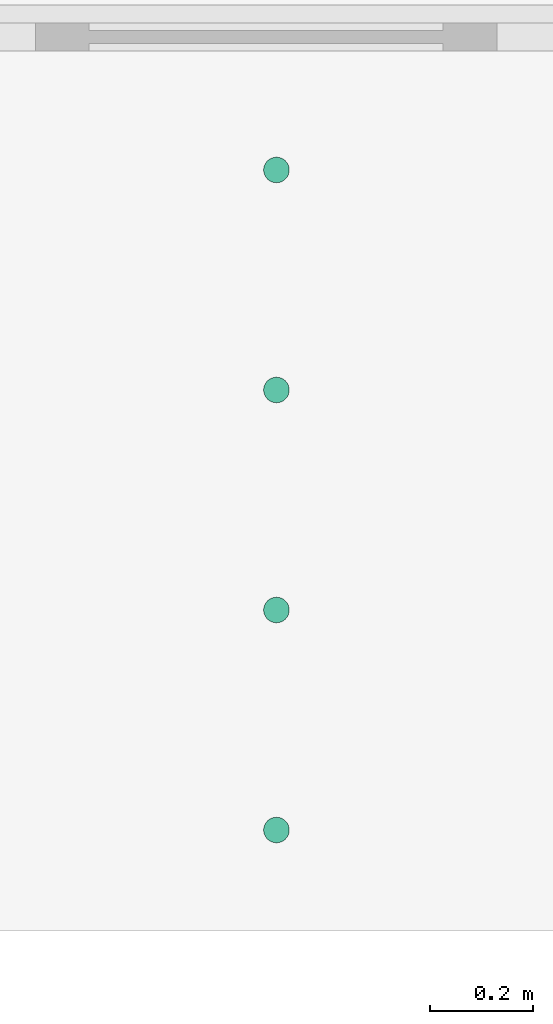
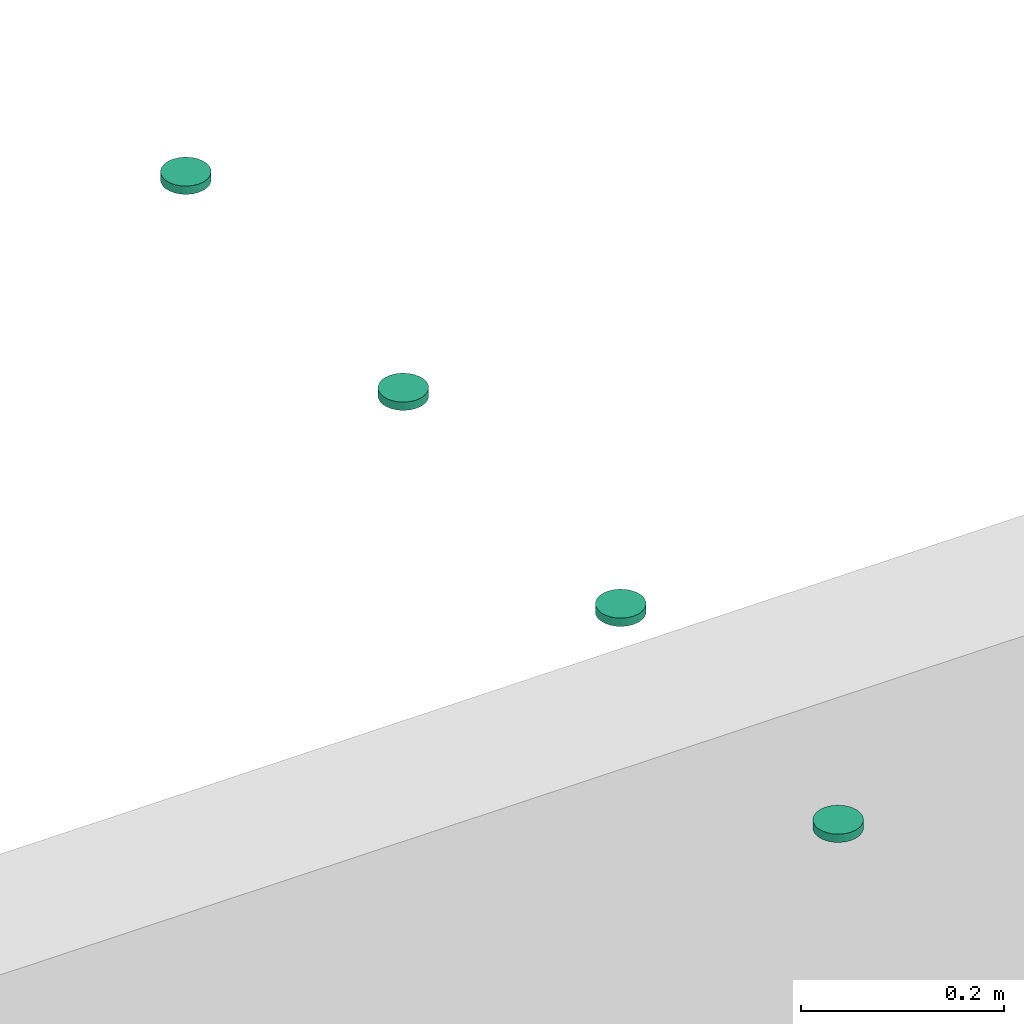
# One storey, part 5 of 6: 4 flow terminals.
"""IFC2X3 building model written with IfcOpenShell, lengths in millimetres."""

import ifcopenshell
import ifcopenshell.guid

model = None  # the IFC model being written
_history = None  # IfcOwnerHistory: only IFC2X3 demands one
_inside = {}  # id of a spatial element -> (the spatial element, [elements in it])
_under = {}  # id of a project, library or spatial element -> (it, [spatial elements below it])
_declared = {}  # id of a project -> (the project, [libraries it declares])
_typed = {}  # id of a type object -> (the type object, [elements of that type])
_made_of = {}  # id of a material, layer set ... -> (it, [elements and type objects made of it])


def new_model(schema):
    """Start an empty IFC model of exactly this schema.

    Asked for "IFC4X3", IfcOpenShell would pick the latest addendum, in which some entities
    have other attributes; the version numbers below select the first issue.
    IFC2X3 requires an IfcOwnerHistory on every rooted entity: one is made here for all.
    """
    global model, _history
    if schema == "IFC4X3":
        model = ifcopenshell.file(schema_version=(4, 3, 0, 0))
    else:
        model = ifcopenshell.file(schema=schema)
    _inside.clear()
    _under.clear()
    _declared.clear()
    _typed.clear()
    _made_of.clear()
    _history = None
    if model.schema == "IFC2X3":
        org = make("IfcOrganization", Name="unknown")
        user = make(
            "IfcPersonAndOrganization",
            ThePerson=make("IfcPerson", FamilyName="unknown"),
            TheOrganization=org,
        )
        app = make(
            "IfcApplication",
            ApplicationDeveloper=org,
            Version="unknown",
            ApplicationFullName="unknown",
            ApplicationIdentifier="unknown",
        )
        _history = make(
            "IfcOwnerHistory",
            OwningUser=user,
            OwningApplication=app,
            ChangeAction="ADDED",
            CreationDate=0,
        )
    return model


def make(cls, **values):
    """One entity of the class cls with the attributes given. An attribute that is None is left unset."""
    return model.create_entity(
        cls, **{name: value for name, value in values.items() if value is not None}
    )


def entity(cls, *values):
    """Any entity or typed value of the class cls, its attributes in the order of the schema. None: left unset."""
    e = model.create_entity(cls)
    for i, value in enumerate(values):
        if value is not None:
            e[i] = value
    return e


def rooted(cls, **values):
    """An entity with a GlobalId (a new one), such as an element, a storey or a relation."""
    return make(cls, GlobalId=ifcopenshell.guid.new(), OwnerHistory=_history, **values)


def si_unit(unit_type, name, prefix=None):
    """IfcSIUnit, for example si_unit("LENGTHUNIT", "METRE", prefix="MILLI")."""
    return make("IfcSIUnit", UnitType=unit_type, Prefix=prefix, Name=name)


def converted_unit(unit_type, name, factor, base, dimensions=None, offset=None):
    """IfcConversionBasedUnit, such as the inch: factor (a typed value) times the base unit."""
    return make(
        "IfcConversionBasedUnit"
        if offset is None
        else "IfcConversionBasedUnitWithOffset",
        ConversionOffset=offset,
        Dimensions=None
        if dimensions is None
        else entity("IfcDimensionalExponents", *dimensions),
        UnitType=unit_type,
        Name=name,
        ConversionFactor=make(
            "IfcMeasureWithUnit", ValueComponent=factor, UnitComponent=base
        ),
    )


def derived_unit(unit_type, elements):
    """IfcDerivedUnit: a product of units, each with its exponent."""
    return make(
        "IfcDerivedUnit",
        Elements=[
            make("IfcDerivedUnitElement", Unit=unit, Exponent=power)
            for unit, power in elements
        ],
        UnitType=unit_type,
    )


def assignment(units):
    """IfcUnitAssignment: the units of a project."""
    return None if units is None else make("IfcUnitAssignment", Units=units)


def point(xyz):
    """IfcCartesianPoint."""
    return None if xyz is None else make("IfcCartesianPoint", Coordinates=xyz)


def direction(xyz):
    """IfcDirection."""
    return None if xyz is None else make("IfcDirection", DirectionRatios=xyz)


def frame(location, z_axis=None, x_axis=None):
    """IfcAxis2Placement3D, a coordinate frame: its origin and axes. An axis left out is left unset."""
    return make(
        "IfcAxis2Placement3D",
        Location=point(location),
        Axis=direction(z_axis),
        RefDirection=direction(x_axis),
    )


def frame_2d(location, x_axis=None):
    """IfcAxis2Placement2D, a coordinate frame in the plane: its origin and x axis."""
    return make(
        "IfcAxis2Placement2D", Location=point(location), RefDirection=direction(x_axis)
    )


def origin():
    """The frame at (0, 0, 0) with its axes left unset."""
    return frame((0.0, 0.0, 0.0))


def place(relative_to, where):
    """IfcLocalPlacement: puts the frame where relative to a parent placement (None: the world)."""
    return make(
        "IfcLocalPlacement", PlacementRelTo=relative_to, RelativePlacement=where
    )


def context(
    kind, dimensions, precision=None, world=None, true_north=None, identifier=None
):
    """IfcGeometricRepresentationContext, for example the 3D "Model" context."""
    return make(
        "IfcGeometricRepresentationContext",
        ContextIdentifier=identifier,
        ContextType=kind,
        CoordinateSpaceDimension=dimensions,
        Precision=precision,
        WorldCoordinateSystem=world,
        TrueNorth=true_north,
    )


def subcontext(parent, identifier, kind, view, scale=None):
    """IfcGeometricRepresentationSubContext, for example "Body" below "Model"."""
    return make(
        "IfcGeometricRepresentationSubContext",
        ContextIdentifier=identifier,
        ContextType=kind,
        ParentContext=parent,
        TargetScale=scale,
        TargetView=view,
    )


def project(units=None, contexts=None):
    """IfcProject with its units and contexts."""
    return rooted(
        "IfcProject",
        Name="project",
        RepresentationContexts=contexts,
        UnitsInContext=assignment(units),
    )


def spatial(cls, under=None, at=None, **own):
    """A site, building, storey or space (cls), placed at a placement, below another one or the project."""
    s = rooted(cls, ObjectPlacement=at, **own)
    if under is not None:
        _under.setdefault(under.id(), (under, []))[1].append(s)
    return s


def profile(cls, at=None, kind="AREA", **sizes):
    """A parametric profile (cls). Its sizes go by their IFC names, for example OverallWidth=200.0."""
    return make(cls, ProfileType=kind, Position=at, **sizes)


def circle(**sizes):
    """IfcCircleProfileDef."""
    return profile("IfcCircleProfileDef", **sizes)


def extrude(swept, where, along, depth):
    """IfcExtrudedAreaSolid: the profile swept, set in the frame where, extruded along a direction by depth."""
    return make(
        "IfcExtrudedAreaSolid",
        SweptArea=swept,
        Position=where,
        ExtrudedDirection=direction(along),
        Depth=depth,
    )


def shape(context_of_items, identifier, shape_type, items):
    """IfcShapeRepresentation: the items that make up one representation, for example the "Body"."""
    return make(
        "IfcShapeRepresentation",
        ContextOfItems=context_of_items,
        RepresentationIdentifier=identifier,
        RepresentationType=shape_type,
        Items=items,
    )


def source(mapping_origin, context_of_items, identifier, shape_type, items):
    """IfcRepresentationMap: a shape defined once, which mapped items show again and again."""
    return make(
        "IfcRepresentationMap",
        MappingOrigin=mapping_origin,
        MappedRepresentation=shape(context_of_items, identifier, shape_type, items),
    )


def transform(
    local_origin,
    x_axis=None,
    y_axis=None,
    z_axis=None,
    scale=None,
    scale2=None,
    scale3=None,
    uniform=True,
):
    """IfcCartesianTransformationOperator3D, or its non-uniform kind. x_axis, y_axis, z_axis: its Axis1, 2, 3."""
    if uniform:
        return make(
            "IfcCartesianTransformationOperator3D",
            Axis1=direction(x_axis),
            Axis2=direction(y_axis),
            LocalOrigin=point(local_origin),
            Scale=scale,
            Axis3=direction(z_axis),
        )
    return make(
        "IfcCartesianTransformationOperator3DnonUniform",
        Axis1=direction(x_axis),
        Axis2=direction(y_axis),
        LocalOrigin=point(local_origin),
        Scale=scale,
        Axis3=direction(z_axis),
        Scale2=scale2,
        Scale3=scale3,
    )


def mapped(mapping_source, mapping_target):
    """IfcMappedItem: shows the shape of a source again, moved by a transform."""
    return make(
        "IfcMappedItem", MappingSource=mapping_source, MappingTarget=mapping_target
    )


def material(Name=None, Category=None):
    """IfcMaterial."""
    return make("IfcMaterial", Name=Name, Category=Category)


def made_of(thing, what):
    """Note that an element or type object is made of a material, layer set ...; save() writes the relation."""
    if what is not None:
        _made_of.setdefault(what.id(), (what, []))[1].append(thing)
    return thing


def type_object(cls, material=None, **own):
    """A type object (cls), such as IfcWallType, which elements share."""
    return made_of(rooted(cls, **own), material)


def type_shapes(of_type, sources):
    """Give a type object the sources (RepresentationMaps) that its elements show as mapped items."""
    of_type.RepresentationMaps = sources


def element(
    cls,
    number,
    at=None,
    inside=None,
    cuts=None,
    type_object=None,
    material=None,
    context=None,
    identifier="Body",
    shape_type=None,
    held_by="IfcProductDefinitionShape",
    body=None,
    shapes=None,
    **own,
):
    """One element of the class cls, such as IfcWall. Its Tag is "e" and its number.

    at: its placement. inside: the storey or other place that contains it. cuts: it is an
    opening in that element (IfcRelVoidsElement). A single representation is given by context,
    identifier, shape_type and body (its items); several are given by shapes. held_by: the class
    of the entity that holds the representations. save() writes the other relations.
    """
    e = rooted(cls, Tag="e%d" % number, ObjectPlacement=at, **own)
    if body is not None:
        shapes = [shape(context, identifier, shape_type, body)]
    if shapes is not None:
        e.Representation = make(held_by, Representations=shapes)
    if inside is not None:
        _inside.setdefault(inside.id(), (inside, []))[1].append(e)
    if cuts is not None:
        rooted(
            "IfcRelVoidsElement", RelatingBuildingElement=cuts, RelatedOpeningElement=e
        )
    if type_object is not None:
        _typed.setdefault(type_object.id(), (type_object, []))[1].append(e)
    return made_of(e, material)


def aggregate(whole, parts):
    """IfcRelAggregates: a whole, such as a stair, and the parts it consists of."""
    return rooted("IfcRelAggregates", RelatingObject=whole, RelatedObjects=parts)


def save(model, path):
    """Write the relations noted so far, then the file.

    IfcRelAggregates (storeys below a building ...), IfcRelContainedInSpatialStructure (elements
    in a storey), IfcRelDefinesByType, IfcRelAssociatesMaterial and IfcRelDeclares: one each for
    every whole, place, type object, material and project.
    """
    for whole, parts in _under.values():
        aggregate(whole, parts)
    for where, things in _inside.values():
        rooted(
            "IfcRelContainedInSpatialStructure",
            RelatedElements=things,
            RelatingStructure=where,
        )
    for kind, things in _typed.values():
        rooted("IfcRelDefinesByType", RelatedObjects=things, RelatingType=kind)
    for what, things in _made_of.values():
        rooted("IfcRelAssociatesMaterial", RelatedObjects=things, RelatingMaterial=what)
    for by, libraries in _declared.values():
        rooted("IfcRelDeclares", RelatingContext=by, RelatedDefinitions=libraries)
    model.write(path)


model = new_model("IFC2X3")

# Units and contexts
model_context = context("Model", 3, precision=0.01, world=origin(), true_north=direction((6.123031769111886e-17, 1.0)))
body_context = subcontext(model_context, "Body", "Model", "MODEL_VIEW")
ifc_project = project(units=[si_unit("LENGTHUNIT", "METRE", prefix="MILLI"), si_unit("AREAUNIT", "SQUARE_METRE"), si_unit("VOLUMEUNIT", "CUBIC_METRE"), converted_unit("PLANEANGLEUNIT", "DEGREE", entity("IfcRatioMeasure", 0.017453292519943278), si_unit("PLANEANGLEUNIT", "RADIAN"), dimensions=[0, 0, 0, 0, 0, 0, 0]), si_unit("MASSUNIT", "GRAM", prefix="KILO"), derived_unit("MASSDENSITYUNIT", [(si_unit("MASSUNIT", "GRAM", prefix="KILO"), 1), (si_unit("LENGTHUNIT", "METRE"), -3)]), derived_unit("IONCONCENTRATIONUNIT", [(si_unit("MASSUNIT", "GRAM", prefix="KILO"), 1), (si_unit("LENGTHUNIT", "METRE"), -3)]), derived_unit("MOMENTOFINERTIAUNIT", [(si_unit("LENGTHUNIT", "METRE"), 4)]), si_unit("TIMEUNIT", "SECOND"), si_unit("FREQUENCYUNIT", "HERTZ"), si_unit("THERMODYNAMICTEMPERATUREUNIT", "DEGREE_CELSIUS"), derived_unit("THERMALTRANSMITTANCEUNIT", [(si_unit("MASSUNIT", "GRAM", prefix="KILO"), 1), (si_unit("THERMODYNAMICTEMPERATUREUNIT", "KELVIN"), -1), (si_unit("TIMEUNIT", "SECOND"), -3)]), derived_unit("THERMALCONDUCTANCEUNIT", [(si_unit("MASSUNIT", "GRAM", prefix="KILO"), 1), (si_unit("THERMODYNAMICTEMPERATUREUNIT", "KELVIN"), -1), (si_unit("TIMEUNIT", "SECOND"), -3), (si_unit("LENGTHUNIT", "METRE"), 1)]), derived_unit("VOLUMETRICFLOWRATEUNIT", [(si_unit("LENGTHUNIT", "METRE"), 3), (si_unit("TIMEUNIT", "SECOND"), -1)]), derived_unit("MASSFLOWRATEUNIT", [(si_unit("MASSUNIT", "GRAM", prefix="KILO"), 1), (si_unit("TIMEUNIT", "SECOND"), -1)]), derived_unit("ROTATIONALFREQUENCYUNIT", [(si_unit("TIMEUNIT", "SECOND"), -1)]), si_unit("ELECTRICCURRENTUNIT", "AMPERE"), si_unit("ELECTRICVOLTAGEUNIT", "VOLT"), si_unit("POWERUNIT", "WATT"), si_unit("FORCEUNIT", "NEWTON", prefix="KILO"), si_unit("ILLUMINANCEUNIT", "LUX"), si_unit("LUMINOUSFLUXUNIT", "LUMEN"), si_unit("LUMINOUSINTENSITYUNIT", "CANDELA"), derived_unit("USERDEFINED", [(si_unit("MASSUNIT", "GRAM", prefix="KILO"), -1), (si_unit("LENGTHUNIT", "METRE"), -2), (si_unit("TIMEUNIT", "SECOND"), 3), (si_unit("LUMINOUSFLUXUNIT", "LUMEN"), 1)]), derived_unit("USERDEFINED", [(si_unit("MASSUNIT", "GRAM", prefix="KILO"), 1), (si_unit("TIMEUNIT", "SECOND"), -3), (si_unit("LENGTHUNIT", "METRE"), 3), (si_unit("ELECTRICCURRENTUNIT", "AMPERE"), -2)]), derived_unit("SOUNDPOWERUNIT", [(si_unit("MASSUNIT", "GRAM", prefix="KILO"), 1), (si_unit("TIMEUNIT", "SECOND"), -3), (si_unit("LENGTHUNIT", "METRE"), 2)]), derived_unit("SOUNDPRESSUREUNIT", [(si_unit("MASSUNIT", "GRAM", prefix="KILO"), 1), (si_unit("LENGTHUNIT", "METRE"), -1), (si_unit("TIMEUNIT", "SECOND"), -2)]), derived_unit("LINEARVELOCITYUNIT", [(si_unit("LENGTHUNIT", "METRE"), 1), (si_unit("TIMEUNIT", "SECOND"), -1)]), si_unit("PRESSUREUNIT", "PASCAL"), derived_unit("USERDEFINED", [(si_unit("MASSUNIT", "GRAM", prefix="KILO"), 1), (si_unit("LENGTHUNIT", "METRE"), -2), (si_unit("TIMEUNIT", "SECOND"), -2)]), derived_unit("LINEARFORCEUNIT", [(si_unit("MASSUNIT", "GRAM", prefix="KILO"), 1), (si_unit("TIMEUNIT", "SECOND"), -2)]), derived_unit("PLANARFORCEUNIT", [(si_unit("MASSUNIT", "GRAM", prefix="KILO"), 1), (si_unit("LENGTHUNIT", "METRE"), -1), (si_unit("TIMEUNIT", "SECOND"), -2)]), derived_unit("SPECIFICHEATCAPACITYUNIT", [(si_unit("THERMODYNAMICTEMPERATUREUNIT", "KELVIN"), -1), (si_unit("LENGTHUNIT", "METRE"), 2), (si_unit("TIMEUNIT", "SECOND"), -2)]), derived_unit("HEATINGVALUEUNIT", [(si_unit("LENGTHUNIT", "METRE"), 2), (si_unit("TIMEUNIT", "SECOND"), -2)]), derived_unit("VAPORPERMEABILITYUNIT", [(si_unit("LENGTHUNIT", "METRE"), -1), (si_unit("TIMEUNIT", "SECOND"), 1)]), derived_unit("DYNAMICVISCOSITYUNIT", [(si_unit("MASSUNIT", "GRAM", prefix="KILO"), 1), (si_unit("TIMEUNIT", "SECOND"), -1), (si_unit("LENGTHUNIT", "METRE"), -1)]), derived_unit("THERMALEXPANSIONCOEFFICIENTUNIT", [(si_unit("THERMODYNAMICTEMPERATUREUNIT", "KELVIN"), -1)]), derived_unit("MODULUSOFELASTICITYUNIT", [(si_unit("MASSUNIT", "GRAM", prefix="KILO"), 1), (si_unit("LENGTHUNIT", "METRE"), -1), (si_unit("TIMEUNIT", "SECOND"), -2)]), derived_unit("ISOTHERMALMOISTURECAPACITYUNIT", [(si_unit("LENGTHUNIT", "METRE"), 3), (si_unit("MASSUNIT", "GRAM", prefix="KILO"), -1)]), derived_unit("MOISTUREDIFFUSIVITYUNIT", [(si_unit("TIMEUNIT", "SECOND"), -1), (si_unit("LENGTHUNIT", "METRE"), 2)])], contexts=[model_context])

# Site, building, storey
site_placement = place(None, frame((0.0, 300.0, 0.0)))
site = spatial("IfcSite", under=ifc_project, at=site_placement, Name="<Kadastrale nummers>", CompositionType="ELEMENT")
building_placement = place(site_placement, origin())
building = spatial("IfcBuilding", under=site, at=building_placement, CompositionType="ELEMENT")
storey_placement = place(building_placement, frame((0.0, 0.0, -600.0)))
storey = spatial("IfcBuildingStorey", under=building, at=storey_placement, Name="-1 Speelvloer", CompositionType="ELEMENT", Elevation=-599.9999999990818)

# Flow terminals
ifc_material = material(Name="Cibes_spotlight")
light_fixture_type = type_object("IfcLightFixtureType", Name="___LED___subcomponent:___LED___subcomponent", PredefinedType="NOTDEFINED", material=ifc_material)
shared_shape = source(origin(), body_context, "Body", "SweptSolid", [
    extrude(circle(Radius=25.0, at=frame_2d((7.791481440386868e-16, -4.038861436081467e-14), x_axis=(1.0, 0.0))), frame((0.0, 0.0, 1500.0)), (0.0, 0.0, 1.0), 9.999999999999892),
])
type_shapes(light_fixture_type, [shared_shape])
for number, where, z_axis, x_axis, name in (
    (1, (40503.99978599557, 40971.49999999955, 5930.000035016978), (0.0, 0.0, 1.0), (0.0, -1.0, 0.0), "___LED___subcomponent:___LED___subcomponent"),
    (2, (40503.999785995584, 42258.49999999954, 5930.000035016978), (0.0, 0.0, 1.0), (0.0, -1.0, 0.0), "___LED___subcomponent:___LED___subcomponent"),
    (3, (40503.99978599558, 41829.49999999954, 5930.000035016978), (0.0, 0.0, 1.0), (0.0, -1.0, 0.0), "___LED___subcomponent:___LED___subcomponent"),
    (4, (40503.99978599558, 41400.49999999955, 5930.000035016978), (0.0, 0.0, 1.0), (0.0, -1.0, 0.0), "___LED___subcomponent:___LED___subcomponent"),
):
    element("IfcFlowTerminal", number, at=place(storey_placement, frame(where, z_axis=z_axis, x_axis=x_axis)), inside=storey, type_object=light_fixture_type, material=ifc_material, Name=name, ObjectType="___LED___subcomponent:___LED___subcomponent", context=body_context, shape_type="MappedRepresentation", body=[
        mapped(shared_shape, transform((0.0, 0.0, 0.0), scale=1.0)),
    ])

save(model, "model.ifc")
